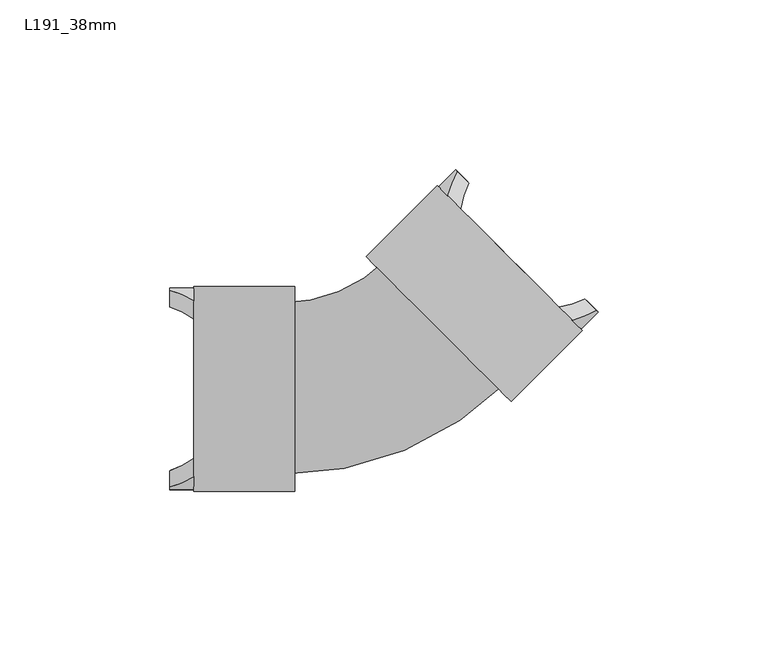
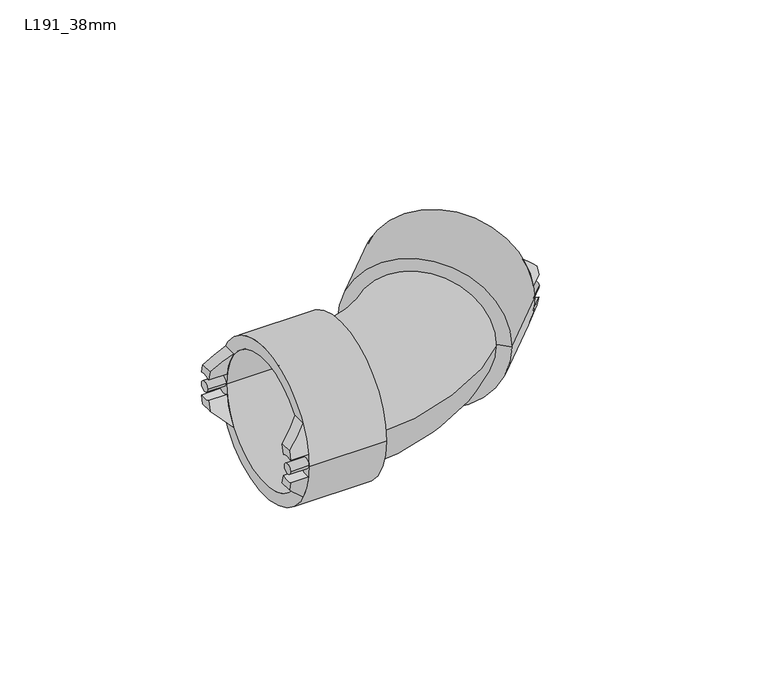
"""IFC4 building model written with IfcOpenShell, lengths in millimetres: pipe fitting geometry, Durapipe_PipeFitting_VulcatheneEnfusion_DoubleSocketSlowBend_L19 : L191_38mm."""

from ifc_helpers import new_model, si_unit, point, frame, frame_2d, origin, place, context, project, spatial, polyline, circle_curve, ellipse_curve, trimmed, segment, composite_curve, outline, extrude, source, transform, mapped, element, save
from ifc_brep_helpers import plane_surface, cylinder_surface, revolved_surface, advanced_brep


def l191_38mm_5e0583e1(model_context):
    return source(origin(), model_context, "Body", "SolidModel", [
        advanced_brep(
        [(25.8701174, 61.3596157, 4.2367744), (22.6174262, 64.6123069, 4.6062458), (23.1214664, 64.1082667, 7.94), (26.517222, 60.7125111, 7.94), (20.1824218, 57.006395, 15.0), (17.5969681, 59.5918487, 4.6062458), (20.8496593, 56.3391575, 4.2367744), (24.0564839, 53.132333, 15.0)],
        [
            (0, 1, circle_curve(frame((23.9926534, 63.2370797, 0.0), z_axis=(-0.7071067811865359, -0.7071067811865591, 0.0), x_axis=(0.7071067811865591, -0.7071067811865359, 0.0)), 5.0)),
            (1, 2, circle_curve(frame((43.6148666, 43.6148666, 0.0), z_axis=(0.7071067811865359, 0.7071067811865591, 0.0), x_axis=(0.7071067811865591, -0.7071067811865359, 0.0)), 30.05)),
            (2, 3),
            (3, 0, circle_curve(frame((43.6148666, 43.6148666, 0.0), z_axis=(-0.7071067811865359, -0.7071067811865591, 0.0), x_axis=(0.7071067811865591, -0.7071067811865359, 0.0)), 25.45)),
            (4, 5, circle_curve(frame((38.5944084, 38.5944084, 0.0), z_axis=(-0.7071067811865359, -0.7071067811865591, 0.0), x_axis=(0.7071067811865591, -0.7071067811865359, 0.0)), 30.05)),
            (5, 6, circle_curve(frame((18.9721952, 58.2166216, 0.0), z_axis=(0.7071067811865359, 0.7071067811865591, 0.0), x_axis=(0.7071067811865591, -0.7071067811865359, 0.0)), 5.0)),
            (6, 7, circle_curve(frame((38.5944084, 38.5944084, 0.0), z_axis=(0.7071067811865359, 0.7071067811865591, 0.0), x_axis=(0.7071067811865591, -0.7071067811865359, 0.0)), 25.45)),
            (7, 4),
            (6, 0),
            (3, 7, ellipse_curve(frame((49.2611042, 49.2611042, 0.0), z_axis=(0.49858558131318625, 0.49858558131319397, 0.7091014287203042), x_axis=(-0.5014104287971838, -0.5014104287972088, 0.705106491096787)), 36.0938388, 25.45)),
            (4, 2, ellipse_curve(frame((49.2611042, 49.2611042, 0.0), z_axis=(-0.49858558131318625, -0.49858558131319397, -0.7091014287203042), x_axis=(0.5014104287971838, 0.5014104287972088, -0.705106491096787)), 42.617676, 30.05)),
            (1, 5),
        ],
        [
            plane_surface(frame((25.20288, 62.0268531, 15.0), z_axis=(0.7071067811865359, 0.7071067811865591, 0.0), x_axis=(0.7071067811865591, -0.7071067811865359, 0.0))),
            plane_surface(frame((20.1824218, 57.006395, 15.0), z_axis=(-0.7071067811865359, -0.7071067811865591, 0.0), x_axis=(-0.7071067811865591, 0.7071067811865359, 0.0))),
            revolved_surface(polyline([(49.15914459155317, 13.167409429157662, 0.0), (85.35479897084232, 49.36306380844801, 0.0)]), (38.5944084, 38.5944084, 0.0), (-0.7071067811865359, -0.7071067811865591, 0.0)),
            cylinder_surface(frame((38.5944084, 38.5944084, 0.0), z_axis=(0.7071067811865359, 0.7071067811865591, 0.0), x_axis=(0.7071067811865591, -0.7071067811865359, 0.0)), 30.05),
            revolved_surface(polyline([(27.52818725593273, 59.701545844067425, 0.0), (22.50772910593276, 54.68108769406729, 0.0)]), (18.9721952, 58.2166216, 0.0), (0.7071067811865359, 0.7071067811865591, 0.0)),
            plane_surface(frame((59.8429672, 17.3458496, 15.0), z_axis=(0.49858558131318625, 0.49858558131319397, 0.7091014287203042), x_axis=(-0.7071067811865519, 0.7071067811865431, 0.0))),
        ],
        [
            (0, [[1, 2, 3, 4]]),
            (1, [[5, 6, 7, 8]]),
            (2, [[-7, 9, -4, 10]]),
            (3, [[-5, 11, -2, 12]]),
            (4, [[-1, -9, -6, -12]]),
            (5, [[-3, -11, -8, -10]]),
        ],
    ),
        advanced_brep(
        [(22.6174262, 64.6123069, -4.6062458), (25.8701174, 61.3596157, -4.2367744), (26.517222, 60.7125111, -7.94), (23.1214664, 64.1082667, -7.94), (17.5969681, 59.5918487, -4.6062458), (20.1824218, 57.006395, -15.0), (24.0564839, 53.132333, -15.0), (20.8496593, 56.3391575, -4.2367744)],
        [
            (0, 1, circle_curve(frame((23.9926534, 63.2370797, 0.0), z_axis=(-0.7071067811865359, -0.7071067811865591, 0.0), x_axis=(0.7071067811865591, -0.7071067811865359, 0.0)), 5.0)),
            (1, 2, circle_curve(frame((43.6148666, 43.6148666, 0.0), z_axis=(-0.7071067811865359, -0.7071067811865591, 0.0), x_axis=(0.7071067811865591, -0.7071067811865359, 0.0)), 25.45)),
            (2, 3),
            (3, 0, circle_curve(frame((43.6148666, 43.6148666, 0.0), z_axis=(0.7071067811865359, 0.7071067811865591, 0.0), x_axis=(0.7071067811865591, -0.7071067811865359, 0.0)), 30.05)),
            (4, 5, circle_curve(frame((38.5944084, 38.5944084, 0.0), z_axis=(-0.7071067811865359, -0.7071067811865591, 0.0), x_axis=(0.7071067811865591, -0.7071067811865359, 0.0)), 30.05)),
            (5, 6),
            (6, 7, circle_curve(frame((38.5944084, 38.5944084, 0.0), z_axis=(0.7071067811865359, 0.7071067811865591, 0.0), x_axis=(0.7071067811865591, -0.7071067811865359, 0.0)), 25.45)),
            (7, 4, circle_curve(frame((18.9721952, 58.2166216, 0.0), z_axis=(0.7071067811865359, 0.7071067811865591, 0.0), x_axis=(0.7071067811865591, -0.7071067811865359, 0.0)), 5.0)),
            (6, 2, ellipse_curve(frame((49.2611042, 49.2611042, 0.0), z_axis=(0.49858558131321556, 0.4985855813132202, -0.7091014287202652), x_axis=(-0.5014104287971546, -0.5014104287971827, -0.7051064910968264)), 36.0938388, 25.45)),
            (1, 7),
            (4, 0),
            (3, 5, ellipse_curve(frame((49.2611042, 49.2611042, 0.0), z_axis=(-0.49858558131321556, -0.4985855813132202, 0.7091014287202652), x_axis=(0.5014104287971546, 0.5014104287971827, 0.7051064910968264)), 42.617676, 30.05)),
        ],
        [
            plane_surface(frame((25.20288, 62.0268531, 15.0), z_axis=(0.7071067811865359, 0.7071067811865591, 0.0), x_axis=(0.7071067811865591, -0.7071067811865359, 0.0))),
            plane_surface(frame((20.1824218, 57.006395, 15.0), z_axis=(-0.7071067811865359, -0.7071067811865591, 0.0), x_axis=(-0.7071067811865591, 0.7071067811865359, 0.0))),
            revolved_surface(polyline([(49.15914459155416, 13.167409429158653, 0.0), (85.35479897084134, 49.36306380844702, 0.0)]), (38.5944084, 38.5944084, 0.0), (-0.7071067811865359, -0.7071067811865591, 0.0)),
            cylinder_surface(frame((38.5944084, 38.5944084, 0.0), z_axis=(0.7071067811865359, 0.7071067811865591, 0.0), x_axis=(0.7071067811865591, -0.7071067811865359, 0.0)), 30.05),
            revolved_surface(polyline([(27.52818725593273, 59.701545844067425, 0.0), (22.50772910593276, 54.68108769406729, 0.0)]), (18.9721952, 58.2166216, 0.0), (0.7071067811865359, 0.7071067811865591, 0.0)),
            plane_surface(frame((64.8634253, 22.3663078, -7.94), z_axis=(0.49858558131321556, 0.4985855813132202, -0.7091014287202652), x_axis=(-0.7071067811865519, 0.7071067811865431, 0.0))),
        ],
        [
            (0, [[1, 2, 3, 4]]),
            (1, [[5, 6, 7, 8]]),
            (2, [[-7, 9, -2, 10]]),
            (3, [[-5, 11, -4, 12]]),
            (4, [[-1, -11, -8, -10]]),
            (5, [[-3, -9, -6, -12]]),
        ],
    ),
        advanced_brep(
        [(64.6123069, 22.6174262, 4.6062458), (61.3596157, 25.8701174, 4.2367744), (60.7125111, 26.517222, 7.94), (64.1082667, 23.1214664, 7.94), (59.5918487, 17.5969681, 4.6062458), (57.006395, 20.1824218, 15.0), (53.132333, 24.0564839, 15.0), (56.3391575, 20.8496593, 4.2367744)],
        [
            (0, 1, circle_curve(frame((63.2370797, 23.9926534, 0.0), z_axis=(-0.7071067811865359, -0.7071067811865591, 0.0), x_axis=(0.7071067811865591, -0.7071067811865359, 0.0)), 5.0)),
            (1, 2, circle_curve(frame((43.6148666, 43.6148666, 0.0), z_axis=(-0.7071067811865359, -0.7071067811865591, 0.0), x_axis=(0.7071067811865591, -0.7071067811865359, 0.0)), 25.45)),
            (2, 3),
            (3, 0, circle_curve(frame((43.6148666, 43.6148666, 0.0), z_axis=(0.7071067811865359, 0.7071067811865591, 0.0), x_axis=(0.7071067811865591, -0.7071067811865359, 0.0)), 30.05)),
            (4, 5, circle_curve(frame((38.5944084, 38.5944084, 0.0), z_axis=(-0.7071067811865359, -0.7071067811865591, 0.0), x_axis=(0.7071067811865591, -0.7071067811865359, 0.0)), 30.05)),
            (5, 6),
            (6, 7, circle_curve(frame((38.5944084, 38.5944084, 0.0), z_axis=(0.7071067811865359, 0.7071067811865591, 0.0), x_axis=(0.7071067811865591, -0.7071067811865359, 0.0)), 25.45)),
            (7, 4, circle_curve(frame((58.2166216, 18.9721952, 0.0), z_axis=(0.7071067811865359, 0.7071067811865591, 0.0), x_axis=(0.7071067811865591, -0.7071067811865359, 0.0)), 5.0)),
            (6, 2, ellipse_curve(frame((49.2611042, 49.2611042, 0.0), z_axis=(0.49858558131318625, 0.49858558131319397, 0.7091014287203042), x_axis=(-0.5014104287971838, -0.5014104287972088, 0.705106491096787)), 36.0938388, 25.45)),
            (1, 7),
            (4, 0),
            (3, 5, ellipse_curve(frame((49.2611042, 49.2611042, 0.0), z_axis=(-0.49858558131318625, -0.49858558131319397, -0.7091014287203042), x_axis=(0.5014104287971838, 0.5014104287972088, -0.705106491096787)), 42.617676, 30.05)),
        ],
        [
            plane_surface(frame((25.20288, 62.0268531, 15.0), z_axis=(0.7071067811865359, 0.7071067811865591, 0.0), x_axis=(0.7071067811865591, -0.7071067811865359, 0.0))),
            plane_surface(frame((20.1824218, 57.006395, 15.0), z_axis=(-0.7071067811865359, -0.7071067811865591, 0.0), x_axis=(-0.7071067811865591, 0.7071067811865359, 0.0))),
            revolved_surface(polyline([(49.15914459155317, 13.167409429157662, 0.0), (85.35479897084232, 49.36306380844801, 0.0)]), (38.5944084, 38.5944084, 0.0), (-0.7071067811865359, -0.7071067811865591, 0.0)),
            cylinder_surface(frame((38.5944084, 38.5944084, 0.0), z_axis=(0.7071067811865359, 0.7071067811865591, 0.0), x_axis=(0.7071067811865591, -0.7071067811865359, 0.0)), 30.05),
            revolved_surface(polyline([(66.77261365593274, 20.457119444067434, 0.0), (61.75215550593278, 15.436661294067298, 0.0)]), (58.2166216, 18.9721952, 0.0), (0.7071067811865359, 0.7071067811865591, 0.0)),
            plane_surface(frame((59.8429672, 17.3458496, 15.0), z_axis=(0.49858558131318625, 0.49858558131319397, 0.7091014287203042), x_axis=(-0.7071067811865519, 0.7071067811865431, 0.0))),
        ],
        [
            (0, [[1, 2, 3, 4]]),
            (1, [[5, 6, 7, 8]]),
            (2, [[-7, 9, -2, 10]]),
            (3, [[-5, 11, -4, 12]]),
            (4, [[-1, -11, -8, -10]]),
            (5, [[-3, -9, -6, -12]]),
        ],
    ),
        advanced_brep(
        [(61.3596157, 25.8701174, -4.2367744), (64.6123069, 22.6174262, -4.6062458), (64.1082667, 23.1214664, -7.94), (60.7125111, 26.517222, -7.94), (57.006395, 20.1824218, -15.0), (59.5918487, 17.5969681, -4.6062458), (56.3391575, 20.8496593, -4.2367744), (53.132333, 24.0564839, -15.0)],
        [
            (0, 1, circle_curve(frame((63.2370797, 23.9926534, 0.0), z_axis=(-0.7071067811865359, -0.7071067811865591, 0.0), x_axis=(0.7071067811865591, -0.7071067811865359, 0.0)), 5.0)),
            (1, 2, circle_curve(frame((43.6148666, 43.6148666, 0.0), z_axis=(0.7071067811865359, 0.7071067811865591, 0.0), x_axis=(0.7071067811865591, -0.7071067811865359, 0.0)), 30.05)),
            (2, 3),
            (3, 0, circle_curve(frame((43.6148666, 43.6148666, 0.0), z_axis=(-0.7071067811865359, -0.7071067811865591, 0.0), x_axis=(0.7071067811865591, -0.7071067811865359, 0.0)), 25.45)),
            (4, 5, circle_curve(frame((38.5944084, 38.5944084, 0.0), z_axis=(-0.7071067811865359, -0.7071067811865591, 0.0), x_axis=(0.7071067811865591, -0.7071067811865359, 0.0)), 30.05)),
            (5, 6, circle_curve(frame((58.2166216, 18.9721952, 0.0), z_axis=(0.7071067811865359, 0.7071067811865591, 0.0), x_axis=(0.7071067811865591, -0.7071067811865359, 0.0)), 5.0)),
            (6, 7, circle_curve(frame((38.5944084, 38.5944084, 0.0), z_axis=(0.7071067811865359, 0.7071067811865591, 0.0), x_axis=(0.7071067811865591, -0.7071067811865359, 0.0)), 25.45)),
            (7, 4),
            (6, 0),
            (3, 7, ellipse_curve(frame((49.2611042, 49.2611042, 0.0), z_axis=(0.49858558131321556, 0.4985855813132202, -0.7091014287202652), x_axis=(-0.5014104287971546, -0.5014104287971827, -0.7051064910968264)), 36.0938388, 25.45)),
            (4, 2, ellipse_curve(frame((49.2611042, 49.2611042, 0.0), z_axis=(-0.49858558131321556, -0.4985855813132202, 0.7091014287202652), x_axis=(0.5014104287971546, 0.5014104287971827, 0.7051064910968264)), 42.617676, 30.05)),
            (1, 5),
        ],
        [
            plane_surface(frame((25.20288, 62.0268531, 15.0), z_axis=(0.7071067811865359, 0.7071067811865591, 0.0), x_axis=(0.7071067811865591, -0.7071067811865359, 0.0))),
            plane_surface(frame((20.1824218, 57.006395, 15.0), z_axis=(-0.7071067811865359, -0.7071067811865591, 0.0), x_axis=(-0.7071067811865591, 0.7071067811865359, 0.0))),
            revolved_surface(polyline([(49.15914459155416, 13.167409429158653, 0.0), (85.35479897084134, 49.36306380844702, 0.0)]), (38.5944084, 38.5944084, 0.0), (-0.7071067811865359, -0.7071067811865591, 0.0)),
            cylinder_surface(frame((38.5944084, 38.5944084, 0.0), z_axis=(0.7071067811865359, 0.7071067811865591, 0.0), x_axis=(0.7071067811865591, -0.7071067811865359, 0.0)), 30.05),
            revolved_surface(polyline([(66.77261365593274, 20.457119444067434, 0.0), (61.75215550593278, 15.436661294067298, 0.0)]), (58.2166216, 18.9721952, 0.0), (0.7071067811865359, 0.7071067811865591, 0.0)),
            plane_surface(frame((64.8634253, 22.3663078, -7.94), z_axis=(0.49858558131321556, 0.4985855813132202, -0.7091014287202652), x_axis=(-0.7071067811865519, 0.7071067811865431, 0.0))),
        ],
        [
            (0, [[1, 2, 3, 4]]),
            (1, [[5, 6, 7, 8]]),
            (2, [[-7, 9, -4, 10]]),
            (3, [[-5, 11, -2, 12]]),
            (4, [[-1, -9, -6, -12]]),
            (5, [[-3, -11, -8, -10]]),
        ],
    ),
        extrude(outline(composite_curve([segment(trimmed(circle_curve(frame_2d((0.0, -2.0000001)), 2.0), [point((0.0, -4.0))], [point((0.0, 0.0))], False, "CARTESIAN"), True, "CONTINUOUS"), segment(trimmed(circle_curve(frame_2d((0.0, -2.0000001)), 2.0), [point((0.0, 0.0))], [point((0.0, -4.0))], False, "CARTESIAN"), True, "CONTINUOUS")], self_intersect=False)), frame((20.3864088, 56.802408, 0.0), z_axis=(0.7071067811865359, 0.7071067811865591, 0.0), x_axis=(0.0, 0.0, 1.0)), (0.0, 0.0, 1.0), 7.1),
        extrude(outline(composite_curve([segment(trimmed(circle_curve(frame_2d((0.0, 53.5)), 2.0), [point((0.0, 51.5))], [point((0.0, 55.4999999))], False, "CARTESIAN"), True, "CONTINUOUS"), segment(trimmed(circle_curve(frame_2d((0.0, 53.5)), 2.0), [point((0.0, 55.4999999))], [point((0.0, 51.5))], False, "CARTESIAN"), True, "CONTINUOUS")], self_intersect=False)), frame((20.3864088, 56.802408, 0.0), z_axis=(0.7071067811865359, 0.7071067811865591, 0.0), x_axis=(0.0, 0.0, 1.0)), (0.0, 0.0, 1.0), 7.1),
        advanced_brep(
        [(5.6078771, 34.8113871, 0.0), (34.8113871, 5.6078771, 0.0), (38.0994337, 2.3198305, 0.0), (2.3198305, 38.0994337, 0.0), (2.991582, 32.195092, 0.0), (32.195092, 2.991582, 0.0), (-3.7612878, 38.9479618, 0.0), (38.9479618, -3.7612878, 0.0), (17.2397836, 59.9490332, 0.0), (59.9490332, 17.2397836, 0.0), (20.7046068, 56.48421, 0.0), (56.48421, 20.7046068, 0.0)],
        [
            (0, 1, circle_curve(frame((20.2096321, 20.2096321, 0.0), z_axis=(-0.7071067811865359, -0.7071067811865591, 0.0), x_axis=(0.7071067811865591, -0.7071067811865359, 0.0)), 20.65)),
            (1, 2),
            (2, 3, circle_curve(frame((20.2096321, 20.2096321, 0.0), z_axis=(0.7071067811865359, 0.7071067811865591, 0.0), x_axis=(0.7071067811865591, -0.7071067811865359, 0.0)), 25.3)),
            (3, 0),
            (1, 0, circle_curve(frame((20.2096321, 20.2096321, 0.0), z_axis=(-0.7071067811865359, -0.7071067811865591, 0.0), x_axis=(0.7071067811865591, -0.7071067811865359, 0.0)), 20.65)),
            (3, 2, circle_curve(frame((20.2096321, 20.2096321, 0.0), z_axis=(0.7071067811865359, 0.7071067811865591, 0.0), x_axis=(0.7071067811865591, -0.7071067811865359, 0.0)), 25.3)),
            (4, 5, circle_curve(frame((17.593337, 17.593337, 0.0), z_axis=(-0.7071067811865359, -0.7071067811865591, 0.0), x_axis=(0.7071067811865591, -0.7071067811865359, 0.0)), 20.65)),
            (5, 1),
            (0, 4),
            (5, 4, circle_curve(frame((17.593337, 17.593337, 0.0), z_axis=(-0.7071067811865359, -0.7071067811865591, 0.0), x_axis=(0.7071067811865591, -0.7071067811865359, 0.0)), 20.65)),
            (6, 7, circle_curve(frame((17.593337, 17.593337, 0.0), z_axis=(-0.7071067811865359, -0.7071067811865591, 0.0), x_axis=(0.7071067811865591, -0.7071067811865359, 0.0)), 30.2)),
            (7, 5),
            (4, 6),
            (7, 6, circle_curve(frame((17.593337, 17.593337, 0.0), z_axis=(-0.7071067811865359, -0.7071067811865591, 0.0), x_axis=(0.7071067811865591, -0.7071067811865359, 0.0)), 30.2)),
            (8, 9, circle_curve(frame((38.5944084, 38.5944084, 0.0), z_axis=(-0.7071067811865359, -0.7071067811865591, 0.0), x_axis=(0.7071067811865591, -0.7071067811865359, 0.0)), 30.2)),
            (9, 7),
            (6, 8),
            (9, 8, circle_curve(frame((38.5944084, 38.5944084, 0.0), z_axis=(-0.7071067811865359, -0.7071067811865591, 0.0), x_axis=(0.7071067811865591, -0.7071067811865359, 0.0)), 30.2)),
            (10, 11, circle_curve(frame((38.5944084, 38.5944084, 0.0), z_axis=(-0.7071067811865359, -0.7071067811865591, 0.0), x_axis=(0.7071067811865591, -0.7071067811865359, 0.0)), 25.3)),
            (11, 9),
            (8, 10),
            (11, 10, circle_curve(frame((38.5944084, 38.5944084, 0.0), z_axis=(-0.7071067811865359, -0.7071067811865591, 0.0), x_axis=(0.7071067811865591, -0.7071067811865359, 0.0)), 25.3)),
            (2, 11),
            (10, 3),
        ],
        [
            plane_surface(frame((20.2096321, 20.2096321, 0.0), z_axis=(0.7071067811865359, 0.7071067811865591, 0.0), x_axis=(0.7071067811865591, -0.7071067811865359, 0.0))),
            revolved_surface(polyline([(34.81138713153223, 5.607877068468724, 0.0), (32.195092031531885, 2.9915819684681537, 0.0)]), (1816.2485697, 1816.2485697, 0.0), (0.7071067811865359, 0.7071067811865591, 0.0)),
            plane_surface(frame((17.593337, 17.593337, 0.0), z_axis=(-0.7071067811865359, -0.7071067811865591, 0.0), x_axis=(0.7071067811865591, -0.7071067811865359, 0.0))),
            cylinder_surface(frame((1816.2485697, 1816.2485697, 0.0), z_axis=(0.7071067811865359, 0.7071067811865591, 0.0), x_axis=(0.7071067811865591, -0.7071067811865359, 0.0)), 30.2),
            plane_surface(frame((38.5944084, 38.5944084, 0.0), z_axis=(0.7071067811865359, 0.7071067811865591, 0.0), x_axis=(0.7071067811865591, -0.7071067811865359, 0.0))),
            revolved_surface(polyline([(56.48420996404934, 20.704606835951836, 0.0), (38.099433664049, 2.319830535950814, 0.0)]), (1816.2485697, 1816.2485697, 0.0), (0.7071067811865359, 0.7071067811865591, 0.0)),
        ],
        [
            (0, [[1, 2, 3, 4]]),
            (0, [[5, -4, 6, -2]]),
            (1, [[7, 8, -1, 9]]),
            (1, [[10, -9, -5, -8]]),
            (2, [[11, 12, -7, 13]]),
            (2, [[14, -13, -10, -12]]),
            (3, [[15, 16, -11, 17]]),
            (3, [[18, -17, -14, -16]]),
            (4, [[19, 20, -15, 21]]),
            (4, [[22, -21, -18, -20]]),
            (5, [[-3, 23, -19, 24]]),
            (5, [[-6, -24, -22, -23]]),
        ],
    ),
        advanced_brep(
        [(-61.6807358, 25.0948649, -4.2367744), (-61.6807358, 29.6948649, -4.6062458), (-61.6807358, 28.9820444, -7.94), (-61.6807358, 24.1797208, -7.94), (-54.5807358, 26.0384811, -15.0), (-54.5807358, 29.6948649, -4.6062458), (-54.5807358, 25.0948649, -4.2367744), (-54.5807358, 20.5597301, -15.0)],
        [
            (0, 1, circle_curve(frame((-61.6807358, 27.75, 0.0), z_axis=(1.0, 0.0, 0.0), x_axis=(0.0, -1.0, 0.0)), 5.0)),
            (1, 2, circle_curve(frame((-61.6807358, 0.0, 0.0), z_axis=(-1.0, 0.0, 0.0), x_axis=(0.0, -1.0, 0.0)), 30.05)),
            (2, 3),
            (3, 0, circle_curve(frame((-61.6807358, 0.0, 0.0), z_axis=(1.0, 0.0, 0.0), x_axis=(0.0, -1.0, 0.0)), 25.45)),
            (4, 5, circle_curve(frame((-54.5807358, 0.0, 0.0), z_axis=(1.0, 0.0, 0.0), x_axis=(0.0, -1.0, 0.0)), 30.05)),
            (5, 6, circle_curve(frame((-54.5807358, 27.75, 0.0), z_axis=(-1.0, 0.0, 0.0), x_axis=(0.0, -1.0, 0.0)), 5.0)),
            (6, 7, circle_curve(frame((-54.5807358, 0.0, 0.0), z_axis=(-1.0, 0.0, 0.0), x_axis=(0.0, -1.0, 0.0)), 25.45)),
            (7, 4),
            (6, 0),
            (3, 7, ellipse_curve(frame((-69.6657216, 0.0, 0.0), z_axis=(-0.705106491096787, 0.0, -0.7091014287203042), x_axis=(0.7091014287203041, 0.0, -0.705106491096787)), 36.0938388, 25.45)),
            (4, 2, ellipse_curve(frame((-69.6657216, 0.0, 0.0), z_axis=(0.705106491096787, 0.0, 0.7091014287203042), x_axis=(-0.7091014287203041, 0.0, 0.705106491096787)), 42.617676, 30.05)),
            (1, 5),
        ],
        [
            plane_surface(frame((-61.6807358, 26.0384811, -15.0), z_axis=(-1.0, 0.0, 0.0), x_axis=(0.0, -1.0, 0.0))),
            plane_surface(frame((-54.5807358, 26.0384811, -15.0), z_axis=(1.0, 0.0, 0.0), x_axis=(0.0, 1.0, 0.0))),
            revolved_surface(polyline([(-44.07152893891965, -25.45, 0.0), (-95.25991426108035, -25.45, 0.0)]), (-54.5807358, 0.0, 0.0), (1.0, 0.0, 0.0)),
            cylinder_surface(frame((-54.5807358, 0.0, 0.0), z_axis=(-1.0, 0.0, 0.0), x_axis=(0.0, -1.0, 0.0)), 30.05),
            revolved_surface(polyline([(-61.6807358, 22.75, 0.0), (-54.5807358, 22.75, 0.0)]), (-54.5807358, 27.75, 0.0), (-1.0, 0.0, 0.0)),
            plane_surface(frame((-54.5807358, -30.05, -15.0), z_axis=(-0.705106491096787, 0.0, -0.7091014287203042), x_axis=(0.0, 1.0, 0.0))),
        ],
        [
            (0, [[1, 2, 3, 4]]),
            (1, [[5, 6, 7, 8]]),
            (2, [[-7, 9, -4, 10]]),
            (3, [[-5, 11, -2, 12]]),
            (4, [[-1, -9, -6, -12]]),
            (5, [[-3, -11, -8, -10]]),
        ],
    ),
        advanced_brep(
        [(-61.6807358, 29.6948649, 4.6062458), (-61.6807358, 25.0948649, 4.2367744), (-61.6807358, 24.1797208, 7.94), (-61.6807358, 28.9820444, 7.94), (-54.5807358, 29.6948649, 4.6062458), (-54.5807358, 26.0384811, 15.0), (-54.5807358, 20.5597301, 15.0), (-54.5807358, 25.0948649, 4.2367744)],
        [
            (0, 1, circle_curve(frame((-61.6807358, 27.75, 0.0), z_axis=(1.0, 0.0, 0.0), x_axis=(0.0, -1.0, 0.0)), 5.0)),
            (1, 2, circle_curve(frame((-61.6807358, 0.0, 0.0), z_axis=(1.0, 0.0, 0.0), x_axis=(0.0, -1.0, 0.0)), 25.45)),
            (2, 3),
            (3, 0, circle_curve(frame((-61.6807358, 0.0, 0.0), z_axis=(-1.0, 0.0, 0.0), x_axis=(0.0, -1.0, 0.0)), 30.05)),
            (4, 5, circle_curve(frame((-54.5807358, 0.0, 0.0), z_axis=(1.0, 0.0, 0.0), x_axis=(0.0, -1.0, 0.0)), 30.05)),
            (5, 6),
            (6, 7, circle_curve(frame((-54.5807358, 0.0, 0.0), z_axis=(-1.0, 0.0, 0.0), x_axis=(0.0, -1.0, 0.0)), 25.45)),
            (7, 4, circle_curve(frame((-54.5807358, 27.75, 0.0), z_axis=(-1.0, 0.0, 0.0), x_axis=(0.0, -1.0, 0.0)), 5.0)),
            (6, 2, ellipse_curve(frame((-69.6657216, 0.0, 0.0), z_axis=(-0.7051064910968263, 0.0, 0.7091014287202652), x_axis=(0.7091014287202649, 0.0, 0.7051064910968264)), 36.0938388, 25.45)),
            (1, 7),
            (4, 0),
            (3, 5, ellipse_curve(frame((-69.6657216, 0.0, 0.0), z_axis=(0.7051064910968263, 0.0, -0.7091014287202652), x_axis=(-0.7091014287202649, 0.0, -0.7051064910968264)), 42.617676, 30.05)),
        ],
        [
            plane_surface(frame((-61.6807358, 26.0384811, -15.0), z_axis=(-1.0, 0.0, 0.0), x_axis=(0.0, -1.0, 0.0))),
            plane_surface(frame((-54.5807358, 26.0384811, -15.0), z_axis=(1.0, 0.0, 0.0), x_axis=(0.0, 1.0, 0.0))),
            revolved_surface(polyline([(-44.07152893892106, -25.45, 0.0), (-95.25991426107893, -25.45, 0.0)]), (-54.5807358, 0.0, 0.0), (1.0, 0.0, 0.0)),
            cylinder_surface(frame((-54.5807358, 0.0, 0.0), z_axis=(-1.0, 0.0, 0.0), x_axis=(0.0, -1.0, 0.0)), 30.05),
            revolved_surface(polyline([(-61.6807358, 22.75, 0.0), (-54.5807358, 22.75, 0.0)]), (-54.5807358, 27.75, 0.0), (-1.0, 0.0, 0.0)),
            plane_surface(frame((-61.6807358, -30.05, 7.94), z_axis=(-0.7051064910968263, 0.0, 0.7091014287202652), x_axis=(0.0, 1.0, 0.0))),
        ],
        [
            (0, [[1, 2, 3, 4]]),
            (1, [[5, 6, 7, 8]]),
            (2, [[-7, 9, -2, 10]]),
            (3, [[-5, 11, -4, 12]]),
            (4, [[-1, -11, -8, -10]]),
            (5, [[-3, -9, -6, -12]]),
        ],
    ),
        advanced_brep(
        [(-61.6807358, -29.6948649, -4.6062458), (-61.6807358, -25.0948649, -4.2367744), (-61.6807358, -24.1797208, -7.94), (-61.6807358, -28.9820444, -7.94), (-54.5807358, -29.6948649, -4.6062458), (-54.5807358, -26.0384811, -15.0), (-54.5807358, -20.5597301, -15.0), (-54.5807358, -25.0948649, -4.2367744)],
        [
            (0, 1, circle_curve(frame((-61.6807358, -27.75, 0.0), z_axis=(1.0, 0.0, 0.0), x_axis=(0.0, -1.0, 0.0)), 5.0)),
            (1, 2, circle_curve(frame((-61.6807358, 0.0, 0.0), z_axis=(1.0, 0.0, 0.0), x_axis=(0.0, -1.0, 0.0)), 25.45)),
            (2, 3),
            (3, 0, circle_curve(frame((-61.6807358, 0.0, 0.0), z_axis=(-1.0, 0.0, 0.0), x_axis=(0.0, -1.0, 0.0)), 30.05)),
            (4, 5, circle_curve(frame((-54.5807358, 0.0, 0.0), z_axis=(1.0, 0.0, 0.0), x_axis=(0.0, -1.0, 0.0)), 30.05)),
            (5, 6),
            (6, 7, circle_curve(frame((-54.5807358, 0.0, 0.0), z_axis=(-1.0, 0.0, 0.0), x_axis=(0.0, -1.0, 0.0)), 25.45)),
            (7, 4, circle_curve(frame((-54.5807358, -27.75, 0.0), z_axis=(-1.0, 0.0, 0.0), x_axis=(0.0, -1.0, 0.0)), 5.0)),
            (6, 2, ellipse_curve(frame((-69.6657216, 0.0, 0.0), z_axis=(-0.705106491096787, 0.0, -0.7091014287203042), x_axis=(0.7091014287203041, 0.0, -0.705106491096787)), 36.0938388, 25.45)),
            (1, 7),
            (4, 0),
            (3, 5, ellipse_curve(frame((-69.6657216, 0.0, 0.0), z_axis=(0.705106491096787, 0.0, 0.7091014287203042), x_axis=(-0.7091014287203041, 0.0, 0.705106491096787)), 42.617676, 30.05)),
        ],
        [
            plane_surface(frame((-61.6807358, 26.0384811, -15.0), z_axis=(-1.0, 0.0, 0.0), x_axis=(0.0, -1.0, 0.0))),
            plane_surface(frame((-54.5807358, 26.0384811, -15.0), z_axis=(1.0, 0.0, 0.0), x_axis=(0.0, 1.0, 0.0))),
            revolved_surface(polyline([(-44.07152893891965, -25.45, 0.0), (-95.25991426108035, -25.45, 0.0)]), (-54.5807358, 0.0, 0.0), (1.0, 0.0, 0.0)),
            cylinder_surface(frame((-54.5807358, 0.0, 0.0), z_axis=(-1.0, 0.0, 0.0), x_axis=(0.0, -1.0, 0.0)), 30.05),
            revolved_surface(polyline([(-61.6807358, -32.75, 0.0), (-54.5807358, -32.75, 0.0)]), (-54.5807358, -27.75, 0.0), (-1.0, 0.0, 0.0)),
            plane_surface(frame((-54.5807358, -30.05, -15.0), z_axis=(-0.705106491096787, 0.0, -0.7091014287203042), x_axis=(0.0, 1.0, 0.0))),
        ],
        [
            (0, [[1, 2, 3, 4]]),
            (1, [[5, 6, 7, 8]]),
            (2, [[-7, 9, -2, 10]]),
            (3, [[-5, 11, -4, 12]]),
            (4, [[-1, -11, -8, -10]]),
            (5, [[-3, -9, -6, -12]]),
        ],
    ),
        advanced_brep(
        [(-61.6807358, -25.0948649, 4.2367744), (-61.6807358, -29.6948649, 4.6062458), (-61.6807358, -28.9820444, 7.94), (-61.6807358, -24.1797208, 7.94), (-54.5807358, -26.0384811, 15.0), (-54.5807358, -29.6948649, 4.6062458), (-54.5807358, -25.0948649, 4.2367744), (-54.5807358, -20.5597301, 15.0)],
        [
            (0, 1, circle_curve(frame((-61.6807358, -27.75, 0.0), z_axis=(1.0, 0.0, 0.0), x_axis=(0.0, -1.0, 0.0)), 5.0)),
            (1, 2, circle_curve(frame((-61.6807358, 0.0, 0.0), z_axis=(-1.0, 0.0, 0.0), x_axis=(0.0, -1.0, 0.0)), 30.05)),
            (2, 3),
            (3, 0, circle_curve(frame((-61.6807358, 0.0, 0.0), z_axis=(1.0, 0.0, 0.0), x_axis=(0.0, -1.0, 0.0)), 25.45)),
            (4, 5, circle_curve(frame((-54.5807358, 0.0, 0.0), z_axis=(1.0, 0.0, 0.0), x_axis=(0.0, -1.0, 0.0)), 30.05)),
            (5, 6, circle_curve(frame((-54.5807358, -27.75, 0.0), z_axis=(-1.0, 0.0, 0.0), x_axis=(0.0, -1.0, 0.0)), 5.0)),
            (6, 7, circle_curve(frame((-54.5807358, 0.0, 0.0), z_axis=(-1.0, 0.0, 0.0), x_axis=(0.0, -1.0, 0.0)), 25.45)),
            (7, 4),
            (6, 0),
            (3, 7, ellipse_curve(frame((-69.6657216, 0.0, 0.0), z_axis=(-0.7051064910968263, 0.0, 0.7091014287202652), x_axis=(0.7091014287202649, 0.0, 0.7051064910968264)), 36.0938388, 25.45)),
            (4, 2, ellipse_curve(frame((-69.6657216, 0.0, 0.0), z_axis=(0.7051064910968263, 0.0, -0.7091014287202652), x_axis=(-0.7091014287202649, 0.0, -0.7051064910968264)), 42.617676, 30.05)),
            (1, 5),
        ],
        [
            plane_surface(frame((-61.6807358, 26.0384811, -15.0), z_axis=(-1.0, 0.0, 0.0), x_axis=(0.0, -1.0, 0.0))),
            plane_surface(frame((-54.5807358, 26.0384811, -15.0), z_axis=(1.0, 0.0, 0.0), x_axis=(0.0, 1.0, 0.0))),
            revolved_surface(polyline([(-44.07152893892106, -25.45, 0.0), (-95.25991426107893, -25.45, 0.0)]), (-54.5807358, 0.0, 0.0), (1.0, 0.0, 0.0)),
            cylinder_surface(frame((-54.5807358, 0.0, 0.0), z_axis=(-1.0, 0.0, 0.0), x_axis=(0.0, -1.0, 0.0)), 30.05),
            revolved_surface(polyline([(-61.6807358, -32.75, 0.0), (-54.5807358, -32.75, 0.0)]), (-54.5807358, -27.75, 0.0), (-1.0, 0.0, 0.0)),
            plane_surface(frame((-61.6807358, -30.05, 7.94), z_axis=(-0.7051064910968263, 0.0, 0.7091014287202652), x_axis=(0.0, 1.0, 0.0))),
        ],
        [
            (0, [[1, 2, 3, 4]]),
            (1, [[5, 6, 7, 8]]),
            (2, [[-7, 9, -4, 10]]),
            (3, [[-5, 11, -2, 12]]),
            (4, [[-1, -9, -6, -12]]),
            (5, [[-3, -11, -8, -10]]),
        ],
    ),
        extrude(outline(composite_curve([segment(trimmed(circle_curve(frame_2d((27.75, 0.0)), 2.0), [point((29.75, 0.0))], [point((25.75, 0.0))], False, "CARTESIAN"), True, "CONTINUOUS"), segment(trimmed(circle_curve(frame_2d((27.75, 0.0)), 2.0), [point((25.75, 0.0))], [point((29.75, 0.0))], False, "CARTESIAN"), True, "CONTINUOUS")], self_intersect=False)), frame((-61.6807358, 0.0, 0.0), z_axis=(1.0, 0.0, 0.0), x_axis=(0.0, 1.0, 0.0)), (0.0, 0.0, 1.0), 7.1),
        extrude(outline(composite_curve([segment(trimmed(circle_curve(frame_2d((-27.75, 0.0)), 2.0), [point((-25.75, 0.0))], [point((-29.75, 0.0))], False, "CARTESIAN"), True, "CONTINUOUS"), segment(trimmed(circle_curve(frame_2d((-27.75, 0.0)), 2.0), [point((-29.75, 0.0))], [point((-25.75, 0.0))], False, "CARTESIAN"), True, "CONTINUOUS")], self_intersect=False)), frame((-61.6807358, 0.0, 0.0), z_axis=(1.0, 0.0, 0.0), x_axis=(0.0, 1.0, 0.0)), (0.0, 0.0, 1.0), 7.1),
        advanced_brep(
        [(-28.5807358, 20.65, 0.0), (-28.5807358, -20.65, 0.0), (-28.5807358, -25.3, 0.0), (-28.5807358, 25.3, 0.0), (-24.8807358, 20.65, 0.0), (-24.8807358, -20.65, 0.0), (-24.8807358, 30.2, 0.0), (-24.8807358, -30.2, 0.0), (-54.5807358, 30.2, 0.0), (-54.5807358, -30.2, 0.0), (-54.5807358, 25.3, 0.0), (-54.5807358, -25.3, 0.0)],
        [
            (0, 1, circle_curve(frame((-28.5807358, 0.0, 0.0), z_axis=(1.0, 0.0, 0.0), x_axis=(0.0, -1.0, 0.0)), 20.65)),
            (1, 2),
            (2, 3, circle_curve(frame((-28.5807358, 0.0, 0.0), z_axis=(-1.0, 0.0, 0.0), x_axis=(0.0, -1.0, 0.0)), 25.3)),
            (3, 0),
            (1, 0, circle_curve(frame((-28.5807358, 0.0, 0.0), z_axis=(1.0, 0.0, 0.0), x_axis=(0.0, -1.0, 0.0)), 20.65)),
            (3, 2, circle_curve(frame((-28.5807358, 0.0, 0.0), z_axis=(-1.0, 0.0, 0.0), x_axis=(0.0, -1.0, 0.0)), 25.3)),
            (4, 5, circle_curve(frame((-24.8807358, 0.0, 0.0), z_axis=(1.0, 0.0, 0.0), x_axis=(0.0, -1.0, 0.0)), 20.65)),
            (5, 1),
            (0, 4),
            (5, 4, circle_curve(frame((-24.8807358, 0.0, 0.0), z_axis=(1.0, 0.0, 0.0), x_axis=(0.0, -1.0, 0.0)), 20.65)),
            (6, 7, circle_curve(frame((-24.8807358, 0.0, 0.0), z_axis=(1.0, 0.0, 0.0), x_axis=(0.0, -1.0, 0.0)), 30.2)),
            (7, 5),
            (4, 6),
            (7, 6, circle_curve(frame((-24.8807358, 0.0, 0.0), z_axis=(1.0, 0.0, 0.0), x_axis=(0.0, -1.0, 0.0)), 30.2)),
            (8, 9, circle_curve(frame((-54.5807358, 0.0, 0.0), z_axis=(1.0, 0.0, 0.0), x_axis=(0.0, -1.0, 0.0)), 30.2)),
            (9, 7),
            (6, 8),
            (9, 8, circle_curve(frame((-54.5807358, 0.0, 0.0), z_axis=(1.0, 0.0, 0.0), x_axis=(0.0, -1.0, 0.0)), 30.2)),
            (10, 11, circle_curve(frame((-54.5807358, 0.0, 0.0), z_axis=(1.0, 0.0, 0.0), x_axis=(0.0, -1.0, 0.0)), 25.3)),
            (11, 9),
            (8, 10),
            (11, 10, circle_curve(frame((-54.5807358, 0.0, 0.0), z_axis=(1.0, 0.0, 0.0), x_axis=(0.0, -1.0, 0.0)), 25.3)),
            (2, 11),
            (10, 3),
        ],
        [
            plane_surface(frame((-28.5807358, 0.0, 0.0), z_axis=(-1.0, 0.0, 0.0), x_axis=(0.0, -1.0, 0.0))),
            revolved_surface(polyline([(-28.580735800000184, -20.65, 0.0), (-24.88073579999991, -20.65, 0.0)]), (-2568.5633599, 0.0, 0.0), (-1.0, 0.0, 0.0)),
            plane_surface(frame((-24.8807358, 0.0, 0.0), z_axis=(1.0, 0.0, 0.0), x_axis=(0.0, -1.0, 0.0))),
            cylinder_surface(frame((-2568.5633599, 0.0, 0.0), z_axis=(-1.0, 0.0, 0.0), x_axis=(0.0, -1.0, 0.0)), 30.2),
            plane_surface(frame((-54.5807358, 0.0, 0.0), z_axis=(-1.0, 0.0, 0.0), x_axis=(0.0, -1.0, 0.0))),
            revolved_surface(polyline([(-54.580735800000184, -25.3, 0.0), (-28.580735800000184, -25.3, 0.0)]), (-2568.5633599, 0.0, 0.0), (-1.0, 0.0, 0.0)),
        ],
        [
            (0, [[1, 2, 3, 4]]),
            (0, [[5, -4, 6, -2]]),
            (1, [[7, 8, -1, 9]]),
            (1, [[10, -9, -5, -8]]),
            (2, [[11, 12, -7, 13]]),
            (2, [[14, -13, -10, -12]]),
            (3, [[15, 16, -11, 17]]),
            (3, [[18, -17, -14, -16]]),
            (4, [[19, 20, -15, 21]]),
            (4, [[22, -21, -18, -20]]),
            (5, [[-3, 23, -19, 24]]),
            (5, [[-6, -24, -22, -23]]),
        ],
    ),
        advanced_brep(
        [(-28.5807358, -25.3, 0.0), (-28.5807358, 25.3, 0.0), (-28.5807358, -20.65, 0.0), (-28.5807358, 20.65, 0.0), (38.0994337, 2.3198305, 0.0), (2.3198305, 38.0994337, 0.0), (34.8113871, 5.6078771, 0.0), (5.6078771, 34.8113871, 0.0)],
        [
            (0, 1, circle_curve(frame((-28.5807358, 0.0, 0.0), z_axis=(-1.0, 0.0, 0.0), x_axis=(0.0, 1.0, 0.0)), 25.3)),
            (1, 0, circle_curve(frame((-28.5807358, 0.0, 0.0), z_axis=(-1.0, 0.0, 0.0), x_axis=(0.0, 1.0, 0.0)), 25.3)),
            (2, 3, circle_curve(frame((-28.5807358, 0.0, 0.0), z_axis=(1.0, 0.0, 0.0), x_axis=(0.0, 1.0, 0.0)), 20.65)),
            (3, 2, circle_curve(frame((-28.5807358, 0.0, 0.0), z_axis=(1.0, 0.0, 0.0), x_axis=(0.0, 1.0, 0.0)), 20.65)),
            (4, 5, circle_curve(frame((20.2096321, 20.2096321, 0.0), z_axis=(0.7071067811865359, 0.7071067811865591, 0.0), x_axis=(-0.7071067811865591, 0.7071067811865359, 0.0)), 25.3)),
            (5, 4, circle_curve(frame((20.2096321, 20.2096321, 0.0), z_axis=(0.7071067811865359, 0.7071067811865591, 0.0), x_axis=(-0.7071067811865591, 0.7071067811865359, 0.0)), 25.3)),
            (6, 7, circle_curve(frame((20.2096321, 20.2096321, 0.0), z_axis=(-0.7071067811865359, -0.7071067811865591, 0.0), x_axis=(-0.7071067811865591, 0.7071067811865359, 0.0)), 20.65)),
            (7, 6, circle_curve(frame((20.2096321, 20.2096321, 0.0), z_axis=(-0.7071067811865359, -0.7071067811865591, 0.0), x_axis=(-0.7071067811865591, 0.7071067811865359, 0.0)), 20.65)),
            (7, 3, circle_curve(frame((-28.5807358, 69.0, 0.0), z_axis=(0.0, 0.0, -1.0), x_axis=(0.0, -1.0, 0.0)), 48.35)),
            (2, 6, circle_curve(frame((-28.5807358, 69.0, 0.0), z_axis=(0.0, 0.0, 1.0), x_axis=(0.0, -1.0, 0.0)), 89.65)),
            (5, 1, circle_curve(frame((-28.5807358, 69.0, 0.0), z_axis=(0.0, 0.0, -1.0), x_axis=(0.0, -1.0, 0.0)), 43.7)),
            (0, 4, circle_curve(frame((-28.5807358, 69.0, 0.0), z_axis=(0.0, 0.0, 1.0), x_axis=(0.0, -1.0, 0.0)), 94.3)),
        ],
        [
            plane_surface(frame((-28.5807358, 0.0, 0.0), z_axis=(-1.0, 0.0, 0.0), x_axis=(0.0, 0.0, 1.0))),
            plane_surface(frame((20.2096321, 20.2096321, 0.0), z_axis=(0.7071067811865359, 0.7071067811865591, 0.0), x_axis=(0.0, 0.0, 1.0))),
            revolved_surface(trimmed(ellipse_curve(frame((-28.5807358, 0.0, 0.0), z_axis=(1.0, 0.0, 0.0), x_axis=(0.0, 1.0, 0.0)), 20.65, 20.65), [point((-28.5807358, -20.65, 0.0))], [point((-28.5807358, 20.65, 0.0))], True, "CARTESIAN"), (-28.5807358, 69.0, 0.0), (0.0, 0.0, 1.0)),
            revolved_surface(trimmed(ellipse_curve(frame((-28.5807358, 0.0, 0.0), z_axis=(1.0, 0.0, 0.0), x_axis=(0.0, 1.0, 0.0)), 20.65, 20.65), [point((-28.5807358, 20.65, 0.0))], [point((-28.5807358, -20.65, 0.0))], True, "CARTESIAN"), (-28.5807358, 69.0, 0.0), (0.0, 0.0, 1.0)),
            revolved_surface(trimmed(ellipse_curve(frame((-28.5807358, 0.0, 0.0), z_axis=(-1.0, 0.0, 0.0), x_axis=(0.0, 1.0, 0.0)), 25.3, 25.3), [point((-28.5807358, -25.3, 0.0))], [point((-28.5807358, 25.3, 0.0))], True, "CARTESIAN"), (-28.5807358, 69.0, 0.0), (0.0, 0.0, 1.0)),
            revolved_surface(trimmed(ellipse_curve(frame((-28.5807358, 0.0, 0.0), z_axis=(-1.0, 0.0, 0.0), x_axis=(0.0, 1.0, 0.0)), 25.3, 25.3), [point((-28.5807358, 25.3, 0.0))], [point((-28.5807358, -25.3, 0.0))], True, "CARTESIAN"), (-28.5807358, 69.0, 0.0), (0.0, 0.0, 1.0)),
        ],
        [
            (0, [[1, 2], [3, 4]]),
            (1, [[5, 6], [7, 8]]),
            (2, [[9, -3, 10, -8]]),
            (3, [[-10, -4, -9, -7]]),
            (4, [[11, -1, 12, -6]]),
            (5, [[-12, -2, -11, -5]]),
        ],
    ),
    ])


if __name__ == "__main__":
    model = new_model("IFC4")
    model_context = context("Model", 3, world=origin())
    ifc_project = project(units=[si_unit("LENGTHUNIT", "METRE", prefix="MILLI")], contexts=[model_context])
    site = spatial("IfcSite", under=ifc_project)
    building = spatial("IfcBuilding", under=site)
    placement = place(None, origin())
    l191_38mm_shape = l191_38mm_5e0583e1(model_context)
    element("IfcPipeFitting", 1, ObjectType="Durapipe_PipeFitting_VulcatheneEnfusion_DoubleSocketSlowBend_L19 : L191_38mm", at=placement, inside=building, context=model_context, shape_type="MappedRepresentation", body=[
        mapped(l191_38mm_shape, transform((0.0, 0.0, 0.0), x_axis=(1.0, 0.0, 0.0), y_axis=(0.0, 1.0, 0.0), z_axis=(0.0, 0.0, 1.0))),
    ])
    save(model, "model.ifc")
